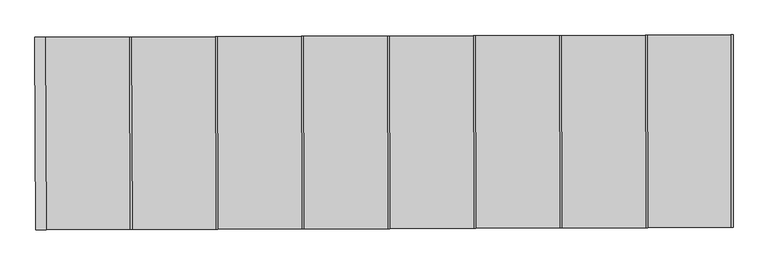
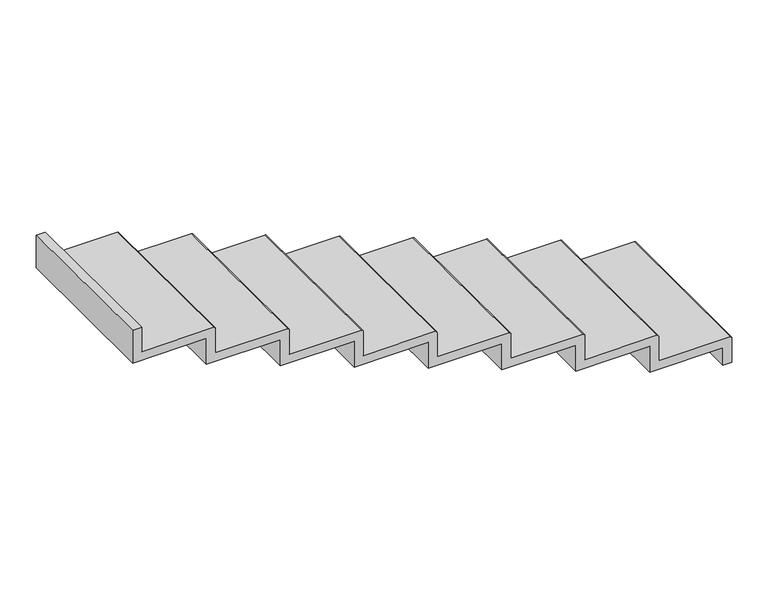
"""IFC4 building model written with IfcOpenShell, lengths in millimetres: stair flight geometry, Huella 50 mm Contrahuella 13 mm."""

from ifc_helpers import new_model, si_unit, frame, origin, place, context, project, spatial, circle_curve, ellipse_curve, source, transform, mapped, element, save
from ifc_brep_helpers import plane_surface, cylinder_surface, advanced_brep


def stair_flight_7dd1a809(model_context):
    return source(origin(), model_context, "Body", "AdvancedBrep", [
        advanced_brep(
        [(27555.8005701, 4976.5727553, -1227.7777778), (27555.8005701, 4976.5727553, -1370.0), (27505.8005701, 4976.3974411, -1370.0), (27505.8005701, 4976.3974411, -1267.7777778), (27095.803393, 4974.9598744, -1267.7777778), (27095.803393, 4974.9598744, -1115.5555556), (26685.8059133, 4973.5223067, -1115.5555556), (26685.8059133, 4973.5223067, -963.3333333), (26275.8084335, 4972.084739, -963.3333333), (26275.8084335, 4972.084739, -811.1111111), (25865.8109538, 4970.6471713, -811.1111111), (25865.8109538, 4970.6471713, -658.8888889), (25455.813474, 4969.2096036, -658.8888889), (25455.813474, 4969.2096036, -506.6666667), (25045.8159943, 4967.7720359, -506.6666667), (25045.8159943, 4967.7720359, -354.4444444), (24635.8185145, 4966.3344682, -354.4444444), (24635.8185145, 4966.3344682, -202.2222222), (24225.8210348, 4964.8969005, -202.2222222), (24225.8210348, 4964.8969005, -10.0), (24275.8207274, 4965.0722137, -10.0), (24275.8207274, 4965.0722137, -152.2222222), (24675.8182687, 4966.4747187, -152.2222222), (24685.8182072, 4966.5097814, -162.2222222), (24685.8182072, 4966.5097814, -304.4444444), (25085.8157484, 4967.9122864, -304.4444444), (25095.8156869, 4967.9473491, -314.4444444), (25095.8156869, 4967.9473491, -456.6666667), (25495.8132282, 4969.3498541, -456.6666667), (25505.8131667, 4969.3849168, -466.6666667), (25505.8131667, 4969.3849168, -608.8888889), (25905.8107079, 4970.7874218, -608.8888889), (25915.8106464, 4970.8224845, -618.8888889), (25915.8106464, 4970.8224845, -761.1111111), (26315.8081877, 4972.2249895, -761.1111111), (26325.8081262, 4972.2600522, -771.1111111), (26325.8081262, 4972.2600522, -913.3333333), (26725.8056674, 4973.6625572, -913.3333333), (26735.8056059, 4973.6976199, -923.3333333), (26735.8056059, 4973.6976199, -1065.5555556), (27135.8031472, 4975.1001249, -1065.5555556), (27145.8030857, 4975.1351876, -1075.5555556), (27145.8030857, 4975.1351876, -1217.7777778), (27545.8005701, 4976.5376924, -1217.7777778), (27505.8005701, 4056.3917859, -1370.0), (27555.8005701, 4056.5671001, -1370.0), (27555.8005701, 4056.5671001, -1227.7777778), (27545.8005701, 4056.5320373, -1217.7777778), (27149.0288474, 4055.1408428, -1217.7777778), (27149.0288474, 4055.1408428, -1075.5555556), (27139.0289089, 4055.1057802, -1065.5555556), (26739.0313676, 4053.7032751, -1065.5555556), (26739.0313677, 4053.7032751, -923.3333333), (26729.0314291, 4053.6682125, -913.3333333), (26329.0338879, 4052.2657074, -913.3333333), (26329.0338879, 4052.2657074, -771.1111111), (26319.0339494, 4052.2306447, -761.1111111), (25919.0364081, 4050.8281396, -761.1111111), (25919.0364081, 4050.8281396, -618.8888889), (25909.0364696, 4050.793077, -608.8888889), (25509.0389284, 4049.3905719, -608.8888889), (25509.0389284, 4049.3905719, -466.6666667), (25499.0389899, 4049.3555093, -456.6666667), (25099.0414486, 4047.9530042, -456.6666667), (25099.0414486, 4047.9530042, -314.4444444), (25089.0415101, 4047.9179416, -304.4444444), (24689.0439689, 4046.5154365, -304.4444444), (24689.0439689, 4046.5154365, -162.2222222), (24679.0440304, 4046.4803738, -152.2222222), (24279.0464891, 4045.0778687, -152.2222222), (24279.0464891, 4045.0778687, -10.0), (24229.0467965, 4044.9025556, -10.0), (24229.0467965, 4044.9025556, -202.2222222), (24639.0442762, 4046.3401233, -202.2222222), (24639.0442762, 4046.3401233, -354.4444444), (25049.041756, 4047.7776911, -354.4444444), (25049.041756, 4047.7776911, -506.6666667), (25459.0392357, 4049.2152588, -506.6666667), (25459.0392357, 4049.2152588, -658.8888889), (25869.0367155, 4050.6528265, -658.8888889), (25869.0367155, 4050.6528265, -811.1111111), (26279.0341952, 4052.0903942, -811.1111111), (26279.0341952, 4052.0903942, -963.3333333), (26689.031675, 4053.527962, -963.3333333), (26689.031675, 4053.527962, -1115.5555556), (27099.0291547, 4054.9655297, -1115.5555556), (27099.0291547, 4054.9655297, -1267.7777778), (27505.8005701, 4056.3917859, -1267.7777778)],
        [
            (0, 1),
            (1, 2),
            (2, 3),
            (3, 4),
            (4, 5),
            (5, 6),
            (6, 7),
            (7, 8),
            (8, 9),
            (9, 10),
            (10, 11),
            (11, 12),
            (12, 13),
            (13, 14),
            (14, 15),
            (15, 16),
            (16, 17),
            (17, 18),
            (18, 19),
            (19, 20),
            (20, 21),
            (21, 22),
            (22, 23, circle_curve(frame((24675.8182687, 4966.4747187, -162.2222222), z_axis=(-0.0035062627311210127, 0.9999938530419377, 0.0), x_axis=(-0.999993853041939, -0.0035062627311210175, 0.0)), 10.0)),
            (23, 24),
            (24, 25),
            (25, 26, circle_curve(frame((25085.8157484, 4967.9122864, -314.4444444), z_axis=(-0.0035062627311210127, 0.9999938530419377, 0.0), x_axis=(-0.9999938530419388, -0.0035062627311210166, 0.0)), 10.0)),
            (26, 27),
            (27, 28),
            (28, 29, circle_curve(frame((25495.8132282, 4969.3498541, -466.6666667), z_axis=(-0.0035062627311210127, 0.9999938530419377, 0.0), x_axis=(-0.9999938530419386, -0.0035062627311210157, 0.0)), 10.0)),
            (29, 30),
            (30, 31),
            (31, 32, circle_curve(frame((25905.8107079, 4970.7874218, -618.8888889), z_axis=(-0.0035062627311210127, 0.9999938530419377, 0.0), x_axis=(-0.9999938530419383, -0.003506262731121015, 0.0)), 10.0)),
            (32, 33),
            (33, 34),
            (34, 35, circle_curve(frame((26315.8081877, 4972.2249895, -771.1111111), z_axis=(-0.0035062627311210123, 0.9999938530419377, 0.0), x_axis=(-0.9999938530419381, -0.003506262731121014, 0.0)), 10.0)),
            (35, 36),
            (36, 37),
            (37, 38, circle_curve(frame((26725.8056674, 4973.6625572, -923.3333333), z_axis=(-0.0035062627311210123, 0.9999938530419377, 0.0), x_axis=(-0.9999938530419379, -0.003506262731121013, 0.0)), 10.0)),
            (38, 39),
            (39, 40),
            (40, 41, circle_curve(frame((27135.8031472, 4975.1001249, -1075.5555556), z_axis=(-0.0035062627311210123, 0.9999938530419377, 0.0), x_axis=(-0.9999938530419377, -0.0035062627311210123, 0.0)), 10.0)),
            (41, 42),
            (42, 43),
            (43, 0, ellipse_curve(frame((27545.8005701, 4976.5376924, -1227.7777778), z_axis=(-0.003506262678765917, 0.9999938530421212, 0.0), x_axis=(0.9999938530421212, 0.003506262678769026, 0.0)), 10.0000615, 10.0)),
            (44, 45),
            (45, 46),
            (46, 47, ellipse_curve(frame((27545.8005701, 4056.5320373, -1227.7777778), z_axis=(0.0035062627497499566, -0.9999938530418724, 0.0), x_axis=(0.9999938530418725, 0.0035062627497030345, 0.0)), 10.0000615, 10.0)),
            (47, 48),
            (48, 49),
            (49, 50, circle_curve(frame((27139.0289089, 4055.1057802, -1075.5555556), z_axis=(0.0035062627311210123, -0.9999938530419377, 0.0), x_axis=(-0.9999938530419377, -0.0035062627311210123, 0.0)), 10.0)),
            (50, 51),
            (51, 52),
            (52, 53, circle_curve(frame((26729.0314291, 4053.6682125, -923.3333333), z_axis=(0.0035062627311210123, -0.9999938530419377, 0.0), x_axis=(-0.9999938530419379, -0.003506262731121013, 0.0)), 10.0)),
            (53, 54),
            (54, 55),
            (55, 56, circle_curve(frame((26319.0339494, 4052.2306447, -771.1111111), z_axis=(0.0035062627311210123, -0.9999938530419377, 0.0), x_axis=(-0.9999938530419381, -0.003506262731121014, 0.0)), 10.0)),
            (56, 57),
            (57, 58),
            (58, 59, circle_curve(frame((25909.0364696, 4050.793077, -618.8888889), z_axis=(0.0035062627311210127, -0.9999938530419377, 0.0), x_axis=(-0.9999938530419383, -0.003506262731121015, 0.0)), 10.0)),
            (59, 60),
            (60, 61),
            (61, 62, circle_curve(frame((25499.0389899, 4049.3555093, -466.6666667), z_axis=(0.0035062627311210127, -0.9999938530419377, 0.0), x_axis=(-0.9999938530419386, -0.0035062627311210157, 0.0)), 10.0)),
            (62, 63),
            (63, 64),
            (64, 65, circle_curve(frame((25089.0415101, 4047.9179416, -314.4444444), z_axis=(0.0035062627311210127, -0.9999938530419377, 0.0), x_axis=(-0.9999938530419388, -0.0035062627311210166, 0.0)), 10.0)),
            (65, 66),
            (66, 67),
            (67, 68, circle_curve(frame((24679.0440304, 4046.4803738, -162.2222222), z_axis=(0.0035062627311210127, -0.9999938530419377, 0.0), x_axis=(-0.999993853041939, -0.0035062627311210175, 0.0)), 10.0)),
            (68, 69),
            (69, 70),
            (70, 71),
            (71, 72),
            (72, 73),
            (73, 74),
            (74, 75),
            (75, 76),
            (76, 77),
            (77, 78),
            (78, 79),
            (79, 80),
            (80, 81),
            (81, 82),
            (82, 83),
            (83, 84),
            (84, 85),
            (85, 86),
            (86, 87),
            (87, 44),
            (0, 46),
            (45, 1),
            (44, 2),
            (87, 3),
            (47, 43),
            (42, 48),
            (86, 4),
            (41, 49),
            (85, 5),
            (50, 40),
            (39, 51),
            (84, 6),
            (38, 52),
            (83, 7),
            (53, 37),
            (36, 54),
            (82, 8),
            (35, 55),
            (81, 9),
            (56, 34),
            (33, 57),
            (80, 10),
            (32, 58),
            (79, 11),
            (59, 31),
            (30, 60),
            (78, 12),
            (29, 61),
            (77, 13),
            (62, 28),
            (27, 63),
            (76, 14),
            (26, 64),
            (75, 15),
            (65, 25),
            (24, 66),
            (74, 16),
            (20, 70),
            (69, 21),
            (17, 73),
            (72, 18),
            (71, 19),
            (23, 67),
            (68, 22),
        ],
        [
            plane_surface(frame((27545.8005701, 4976.5376924, -1217.7777778), z_axis=(-0.003506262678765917, 0.9999938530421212, 0.0), x_axis=(0.9999938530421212, 0.003506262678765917, 0.0))),
            plane_surface(frame((27545.8005701, 4056.5320373, -1217.7777778), z_axis=(0.0035062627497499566, -0.9999938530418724, 0.0), x_axis=(0.9999938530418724, 0.0035062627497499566, 0.0))),
            plane_surface(frame((27555.8005701, 4976.5727553, -1227.7777778), z_axis=(1.0, 0.0, 0.0), x_axis=(0.0, -1.0, 0.0))),
            plane_surface(frame((27555.8005701, 4976.5727553, -1370.0), z_axis=(0.0, 0.0, -1.0), x_axis=(0.0, -1.0, 0.0))),
            plane_surface(frame((27505.8005701, 4976.3974411, -1370.0), z_axis=(-1.0, 0.0, 0.0), x_axis=(0.0, -1.0, 0.0))),
            plane_surface(frame((27559.0263271, 4056.5784106, -1217.7777778), z_axis=(0.0, 0.0, 1.0000000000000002), x_axis=(0.9999938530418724, 0.0035062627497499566, 0.0))),
            plane_surface(frame((27559.0263271, 4056.5784106, -1267.7777778), z_axis=(0.0, 0.0, -1.0000000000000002), x_axis=(-0.9999938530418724, -0.0035062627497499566, 0.0))),
            plane_surface(frame((27145.8030857, 4975.1351876, -1075.5555556), z_axis=(0.9999938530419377, 0.003506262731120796, 0.0), x_axis=(0.003506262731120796, -0.9999938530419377, 0.0))),
            plane_surface(frame((27095.803393, 4974.9598744, -1267.7777778), z_axis=(-0.9999938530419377, -0.0035062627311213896, 0.0), x_axis=(0.0035062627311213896, -0.9999938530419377, 0.0))),
            plane_surface(frame((27559.0263271, 4056.5784106, -1065.5555556), z_axis=(0.0, 0.0, 1.0000000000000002), x_axis=(0.9999938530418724, 0.0035062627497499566, 0.0))),
            plane_surface(frame((27559.0263271, 4056.5784106, -1115.5555556), z_axis=(0.0, 0.0, -1.0000000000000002), x_axis=(-0.9999938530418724, -0.0035062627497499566, 0.0))),
            plane_surface(frame((26735.8056059, 4973.6976198, -923.3333333), z_axis=(0.9999938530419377, 0.003506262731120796, 0.0), x_axis=(0.003506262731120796, -0.9999938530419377, 0.0))),
            plane_surface(frame((26685.8059133, 4973.5223067, -1115.5555556), z_axis=(-0.9999938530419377, -0.0035062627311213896, 0.0), x_axis=(0.0035062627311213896, -0.9999938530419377, 0.0))),
            plane_surface(frame((27149.0288474, 4055.1408428, -913.3333333), z_axis=(0.0, 0.0, 1.0000000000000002), x_axis=(0.9999938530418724, 0.0035062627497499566, 0.0))),
            plane_surface(frame((27149.0288474, 4055.1408428, -963.3333333), z_axis=(0.0, 0.0, -1.0000000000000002), x_axis=(-0.9999938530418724, -0.0035062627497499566, 0.0))),
            plane_surface(frame((26325.8081262, 4972.2600521, -771.1111111), z_axis=(0.9999938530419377, 0.003506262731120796, 0.0), x_axis=(0.003506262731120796, -0.9999938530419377, 0.0))),
            plane_surface(frame((26275.8084335, 4972.084739, -963.3333333), z_axis=(-0.9999938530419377, -0.0035062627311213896, 0.0), x_axis=(0.0035062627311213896, -0.9999938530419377, 0.0))),
            plane_surface(frame((26739.0313676, 4053.7032751, -761.1111111), z_axis=(0.0, 0.0, 1.0000000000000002), x_axis=(0.9999938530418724, 0.0035062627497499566, 0.0))),
            plane_surface(frame((26739.0313676, 4053.7032751, -811.1111111), z_axis=(0.0, 0.0, -1.0000000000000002), x_axis=(-0.9999938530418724, -0.0035062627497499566, 0.0))),
            plane_surface(frame((25915.8106464, 4970.8224844, -618.8888889), z_axis=(0.9999938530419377, 0.003506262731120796, 0.0), x_axis=(0.003506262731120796, -0.9999938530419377, 0.0))),
            plane_surface(frame((25865.8109538, 4970.6471712, -811.1111111), z_axis=(-0.9999938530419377, -0.0035062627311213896, 0.0), x_axis=(0.0035062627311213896, -0.9999938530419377, 0.0))),
            plane_surface(frame((26329.0338879, 4052.2657074, -608.8888889), z_axis=(0.0, 0.0, 1.0000000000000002), x_axis=(0.9999938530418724, 0.0035062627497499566, 0.0))),
            plane_surface(frame((26329.0338879, 4052.2657074, -658.8888889), z_axis=(0.0, 0.0, -1.0000000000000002), x_axis=(-0.9999938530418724, -0.0035062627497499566, 0.0))),
            plane_surface(frame((25505.8131667, 4969.3849167, -466.6666667), z_axis=(0.9999938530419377, 0.003506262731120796, 0.0), x_axis=(0.003506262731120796, -0.9999938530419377, 0.0))),
            plane_surface(frame((25455.813474, 4969.2096035, -658.8888889), z_axis=(-0.9999938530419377, -0.0035062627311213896, 0.0), x_axis=(0.0035062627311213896, -0.9999938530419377, 0.0))),
            plane_surface(frame((25919.0364081, 4050.8281396, -456.6666667), z_axis=(0.0, 0.0, 1.0000000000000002), x_axis=(0.9999938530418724, 0.0035062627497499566, 0.0))),
            plane_surface(frame((25919.0364081, 4050.8281396, -506.6666667), z_axis=(0.0, 0.0, -1.0000000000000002), x_axis=(-0.9999938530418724, -0.0035062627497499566, 0.0))),
            plane_surface(frame((25095.8156869, 4967.9473489, -314.4444444), z_axis=(0.9999938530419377, 0.003506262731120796, 0.0), x_axis=(0.003506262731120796, -0.9999938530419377, 0.0))),
            plane_surface(frame((25045.8159943, 4967.7720358, -506.6666667), z_axis=(-0.9999938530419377, -0.0035062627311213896, 0.0), x_axis=(0.0035062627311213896, -0.9999938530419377, 0.0))),
            plane_surface(frame((25509.0389284, 4049.3905719, -304.4444444), z_axis=(0.0, 0.0, 1.0000000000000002), x_axis=(0.9999938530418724, 0.0035062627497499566, 0.0))),
            plane_surface(frame((25509.0389284, 4049.3905719, -354.4444444), z_axis=(0.0, 0.0, -1.0000000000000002), x_axis=(-0.9999938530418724, -0.0035062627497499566, 0.0))),
            plane_surface(frame((24275.8207274, 4965.0722137, -10.0), z_axis=(0.9999938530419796, 0.003506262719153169, 0.0), x_axis=(0.003506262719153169, -0.9999938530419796, 0.0))),
            plane_surface(frame((24275.8207274, 4965.0722137, -202.2222222), z_axis=(0.0, 0.0, -1.0), x_axis=(0.003506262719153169, -0.9999938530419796, 0.0))),
            plane_surface(frame((24225.8210348, 4964.8969005, -202.2222222), z_axis=(-0.9999938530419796, -0.003506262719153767, 0.0), x_axis=(0.003506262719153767, -0.9999938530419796, 0.0))),
            plane_surface(frame((24225.8210348, 4964.8969005, -10.0), z_axis=(0.0, 0.0, 1.0), x_axis=(0.003506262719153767, -0.9999938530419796, 0.0))),
            plane_surface(frame((24685.8182072, 4966.5097812, -162.2222222), z_axis=(0.9999938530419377, 0.003506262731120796, 0.0), x_axis=(0.003506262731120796, -0.9999938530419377, 0.0))),
            plane_surface(frame((24635.8185145, 4966.3344681, -354.4444444), z_axis=(-0.9999938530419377, -0.0035062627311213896, 0.0), x_axis=(0.0035062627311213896, -0.9999938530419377, 0.0))),
            plane_surface(frame((25099.0414486, 4047.9530042, -152.2222222), z_axis=(0.0, 0.0, 1.0000000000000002), x_axis=(0.9999938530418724, 0.0035062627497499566, 0.0))),
            cylinder_surface(frame((27545.8005701, 4976.5376924, -1227.7777778), z_axis=(0.0, 1.0, 0.0), x_axis=(-1.0, 0.0, 0.0)), 10.0),
            cylinder_surface(frame((27135.8031472, 4975.1001249, -1075.5555556), z_axis=(-0.0035062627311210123, 0.9999938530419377, 0.0), x_axis=(-0.9999938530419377, -0.0035062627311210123, 0.0)), 10.0),
            cylinder_surface(frame((26725.8056674, 4973.6625572, -923.3333333), z_axis=(-0.003506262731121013, 0.9999938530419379, 0.0), x_axis=(-0.9999938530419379, -0.003506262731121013, 0.0)), 10.0),
            cylinder_surface(frame((26315.8081877, 4972.2249895, -771.1111111), z_axis=(-0.003506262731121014, 0.9999938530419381, 0.0), x_axis=(-0.9999938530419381, -0.003506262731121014, 0.0)), 10.0),
            cylinder_surface(frame((25905.8107079, 4970.7874218, -618.8888889), z_axis=(-0.003506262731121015, 0.9999938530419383, 0.0), x_axis=(-0.9999938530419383, -0.003506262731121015, 0.0)), 10.0),
            cylinder_surface(frame((25495.8132282, 4969.349854, -466.6666667), z_axis=(-0.0035062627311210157, 0.9999938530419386, 0.0), x_axis=(-0.9999938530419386, -0.0035062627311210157, 0.0)), 10.0),
            cylinder_surface(frame((25085.8157484, 4967.9122863, -314.4444444), z_axis=(-0.0035062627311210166, 0.9999938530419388, 0.0), x_axis=(-0.9999938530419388, -0.0035062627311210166, 0.0)), 10.0),
            cylinder_surface(frame((24675.8182687, 4966.4747186, -162.2222222), z_axis=(-0.0035062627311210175, 0.999993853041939, 0.0), x_axis=(-0.999993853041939, -0.0035062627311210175, 0.0)), 10.0),
        ],
        [
            (0, [[1, 2, 3, 4, 5, 6, 7, 8, 9, 10, 11, 12, 13, 14, 15, 16, 17, 18, 19, 20, 21, 22, 23, 24, 25, 26, 27, 28, 29, 30, 31, 32, 33, 34, 35, 36, 37, 38, 39, 40, 41, 42, 43, 44]]),
            (1, [[45, 46, 47, 48, 49, 50, 51, 52, 53, 54, 55, 56, 57, 58, 59, 60, 61, 62, 63, 64, 65, 66, 67, 68, 69, 70, 71, 72, 73, 74, 75, 76, 77, 78, 79, 80, 81, 82, 83, 84, 85, 86, 87, 88]]),
            (2, [[-1, 89, -46, 90]]),
            (3, [[-2, -90, -45, 91]]),
            (4, [[-91, -88, 92, -3]]),
            (5, [[-48, 93, -43, 94]]),
            (6, [[-92, -87, 95, -4]]),
            (7, [[-49, -94, -42, 96]]),
            (8, [[-95, -86, 97, -5]]),
            (9, [[-51, 98, -40, 99]]),
            (10, [[-97, -85, 100, -6]]),
            (11, [[-52, -99, -39, 101]]),
            (12, [[-100, -84, 102, -7]]),
            (13, [[-54, 103, -37, 104]]),
            (14, [[-102, -83, 105, -8]]),
            (15, [[-55, -104, -36, 106]]),
            (16, [[-105, -82, 107, -9]]),
            (17, [[-57, 108, -34, 109]]),
            (18, [[-107, -81, 110, -10]]),
            (19, [[-58, -109, -33, 111]]),
            (20, [[-110, -80, 112, -11]]),
            (21, [[-60, 113, -31, 114]]),
            (22, [[-112, -79, 115, -12]]),
            (23, [[-61, -114, -30, 116]]),
            (24, [[-115, -78, 117, -13]]),
            (25, [[-63, 118, -28, 119]]),
            (26, [[-117, -77, 120, -14]]),
            (27, [[-64, -119, -27, 121]]),
            (28, [[-120, -76, 122, -15]]),
            (29, [[-66, 123, -25, 124]]),
            (30, [[-122, -75, 125, -16]]),
            (31, [[126, -70, 127, -21]]),
            (32, [[-18, 128, -73, 129]]),
            (33, [[-19, -129, -72, 130]]),
            (34, [[-20, -130, -71, -126]]),
            (35, [[-67, -124, -24, 131]]),
            (36, [[-125, -74, -128, -17]]),
            (37, [[-69, 132, -22, -127]]),
            (38, [[-93, -47, -89, -44]]),
            (39, [[-98, -50, -96, -41]]),
            (40, [[-103, -53, -101, -38]]),
            (41, [[-108, -56, -106, -35]]),
            (42, [[-113, -59, -111, -32]]),
            (43, [[-118, -62, -116, -29]]),
            (44, [[-123, -65, -121, -26]]),
            (45, [[-132, -68, -131, -23]]),
        ],
    ),
    ])


if __name__ == "__main__":
    model = new_model("IFC4")
    model_context = context("Model", 3, world=origin())
    ifc_project = project(units=[si_unit("LENGTHUNIT", "METRE", prefix="MILLI")], contexts=[model_context])
    site = spatial("IfcSite", under=ifc_project)
    building = spatial("IfcBuilding", under=site)
    placement = place(None, origin())
    stair_flight_shape = stair_flight_7dd1a809(model_context)
    element("IfcStairFlight", 1, ObjectType="Huella 50 mm Contrahuella 13 mm", at=placement, inside=building, context=model_context, shape_type="MappedRepresentation", body=[
        mapped(stair_flight_shape, transform((0.0, 0.0, 0.0), x_axis=(1.0, 0.0, 0.0), y_axis=(0.0, 1.0, 0.0), z_axis=(0.0, 0.0, 1.0))),
    ])
    save(model, "model.ifc")
